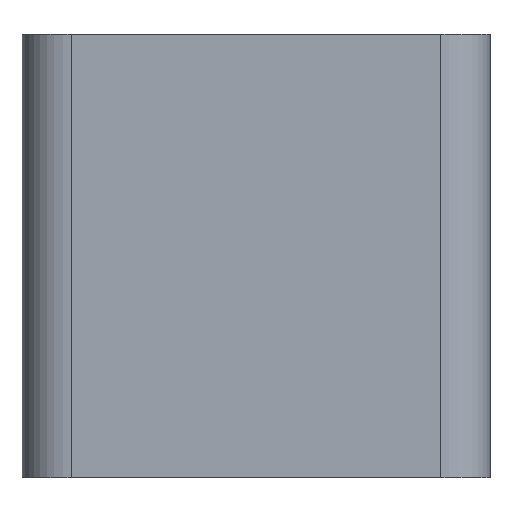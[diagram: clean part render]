
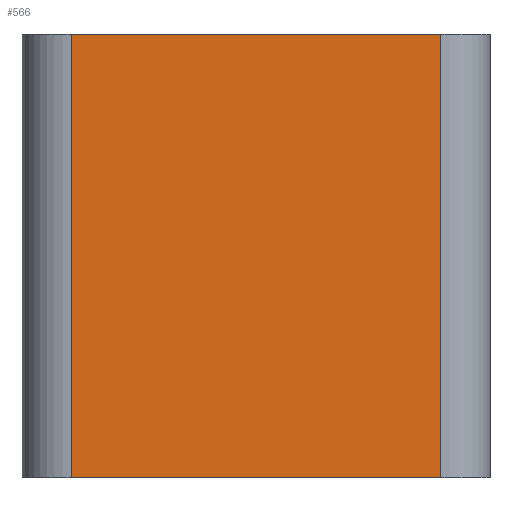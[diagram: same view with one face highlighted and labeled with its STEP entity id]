
A CAD part, front view. The second image highlights one B-rep face of the part: STEP entity #566.
In plain terms, the highlighted planar face has unit normal (0, -1, 0).
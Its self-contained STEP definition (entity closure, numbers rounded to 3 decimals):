
#44 = PLANE('',#45);
#45 = AXIS2_PLACEMENT_3D('',#46,#47,#48);
#46 = CARTESIAN_POINT('',(-31.149,-29.4,2.));
#47 = DIRECTION('',(0.,-0.,-1.));
#48 = DIRECTION('',(-1.,0.,0.));
#72 = CYLINDRICAL_SURFACE('',#73,0.4);
#73 = AXIS2_PLACEMENT_3D('',#74,#75,#76);
#74 = CARTESIAN_POINT('',(-30.749,-29.,5.6));
#75 = DIRECTION('',(-0.,-0.,-1.));
#76 = DIRECTION('',(-1.,-0.,-0.));
#100 = PLANE('',#101);
#101 = AXIS2_PLACEMENT_3D('',#102,#103,#104);
#102 = CARTESIAN_POINT('',(-31.149,-29.4,5.6));
#103 = DIRECTION('',(0.,-0.,-1.));
#104 = DIRECTION('',(-1.,0.,0.));
#143 = VERTEX_POINT('',#144);
#144 = CARTESIAN_POINT('',(-30.749,-29.4,2.));
#170 = EDGE_CURVE('',#143,#171,#173,.T.);
#171 = VERTEX_POINT('',#172);
#172 = CARTESIAN_POINT('',(-27.749,-29.4,2.));
#173 = SURFACE_CURVE('',#174,(#178,#185),.PCURVE_S1.);
#174 = LINE('',#175,#176);
#175 = CARTESIAN_POINT('',(-31.149,-29.4,2.));
#176 = VECTOR('',#177,1.);
#177 = DIRECTION('',(1.,0.,-0.));
#178 = PCURVE('',#44,#179);
#179 = DEFINITIONAL_REPRESENTATION('',(#180),#184);
#180 = LINE('',#181,#182);
#181 = CARTESIAN_POINT('',(-0.,0.));
#182 = VECTOR('',#183,1.);
#183 = DIRECTION('',(-1.,0.));
#184 = ( GEOMETRIC_REPRESENTATION_CONTEXT(2) 
PARAMETRIC_REPRESENTATION_CONTEXT() REPRESENTATION_CONTEXT('2D SPACE',''
  ) );
#185 = PCURVE('',#186,#191);
#186 = PLANE('',#187);
#187 = AXIS2_PLACEMENT_3D('',#188,#189,#190);
#188 = CARTESIAN_POINT('',(-31.149,-29.4,5.6));
#189 = DIRECTION('',(-0.,1.,0.));
#190 = DIRECTION('',(0.,0.,1.));
#191 = DEFINITIONAL_REPRESENTATION('',(#192),#196);
#192 = LINE('',#193,#194);
#193 = CARTESIAN_POINT('',(-3.6,0.));
#194 = VECTOR('',#195,1.);
#195 = DIRECTION('',(-0.,1.));
#196 = ( GEOMETRIC_REPRESENTATION_CONTEXT(2) 
PARAMETRIC_REPRESENTATION_CONTEXT() REPRESENTATION_CONTEXT('2D SPACE',''
  ) );
#215 = CYLINDRICAL_SURFACE('',#216,0.4);
#216 = AXIS2_PLACEMENT_3D('',#217,#218,#219);
#217 = CARTESIAN_POINT('',(-27.749,-29.,5.6));
#218 = DIRECTION('',(-0.,-0.,-1.));
#219 = DIRECTION('',(1.,-0.,-0.));
#342 = VERTEX_POINT('',#343);
#343 = CARTESIAN_POINT('',(-30.749,-29.4,5.6));
#369 = EDGE_CURVE('',#342,#143,#370,.T.);
#370 = SURFACE_CURVE('',#371,(#375,#382),.PCURVE_S1.);
#371 = LINE('',#372,#373);
#372 = CARTESIAN_POINT('',(-30.749,-29.4,5.6));
#373 = VECTOR('',#374,1.);
#374 = DIRECTION('',(-0.,-0.,-1.));
#375 = PCURVE('',#72,#376);
#376 = DEFINITIONAL_REPRESENTATION('',(#377),#381);
#377 = LINE('',#378,#379);
#378 = CARTESIAN_POINT('',(-1.571,0.));
#379 = VECTOR('',#380,1.);
#380 = DIRECTION('',(-0.,1.));
#381 = ( GEOMETRIC_REPRESENTATION_CONTEXT(2) 
PARAMETRIC_REPRESENTATION_CONTEXT() REPRESENTATION_CONTEXT('2D SPACE',''
  ) );
#382 = PCURVE('',#186,#383);
#383 = DEFINITIONAL_REPRESENTATION('',(#384),#388);
#384 = LINE('',#385,#386);
#385 = CARTESIAN_POINT('',(0.,0.4));
#386 = VECTOR('',#387,1.);
#387 = DIRECTION('',(-1.,0.));
#388 = ( GEOMETRIC_REPRESENTATION_CONTEXT(2) 
PARAMETRIC_REPRESENTATION_CONTEXT() REPRESENTATION_CONTEXT('2D SPACE',''
  ) );
#447 = EDGE_CURVE('',#342,#448,#450,.T.);
#448 = VERTEX_POINT('',#449);
#449 = CARTESIAN_POINT('',(-27.749,-29.4,5.6));
#450 = SURFACE_CURVE('',#451,(#455,#462),.PCURVE_S1.);
#451 = LINE('',#452,#453);
#452 = CARTESIAN_POINT('',(-31.149,-29.4,5.6));
#453 = VECTOR('',#454,1.);
#454 = DIRECTION('',(1.,0.,-0.));
#455 = PCURVE('',#100,#456);
#456 = DEFINITIONAL_REPRESENTATION('',(#457),#461);
#457 = LINE('',#458,#459);
#458 = CARTESIAN_POINT('',(-0.,0.));
#459 = VECTOR('',#460,1.);
#460 = DIRECTION('',(-1.,0.));
#461 = ( GEOMETRIC_REPRESENTATION_CONTEXT(2) 
PARAMETRIC_REPRESENTATION_CONTEXT() REPRESENTATION_CONTEXT('2D SPACE',''
  ) );
#462 = PCURVE('',#186,#463);
#463 = DEFINITIONAL_REPRESENTATION('',(#464),#468);
#464 = LINE('',#465,#466);
#465 = CARTESIAN_POINT('',(0.,-0.));
#466 = VECTOR('',#467,1.);
#467 = DIRECTION('',(-0.,1.));
#468 = ( GEOMETRIC_REPRESENTATION_CONTEXT(2) 
PARAMETRIC_REPRESENTATION_CONTEXT() REPRESENTATION_CONTEXT('2D SPACE',''
  ) );
#566 = ADVANCED_FACE('',(#567),#186,.F.);
#567 = FACE_BOUND('',#568,.T.);
#568 = EDGE_LOOP('',(#569,#570,#571,#572));
#569 = ORIENTED_EDGE('',*,*,#447,.F.);
#570 = ORIENTED_EDGE('',*,*,#369,.T.);
#571 = ORIENTED_EDGE('',*,*,#170,.T.);
#572 = ORIENTED_EDGE('',*,*,#573,.F.);
#573 = EDGE_CURVE('',#448,#171,#574,.T.);
#574 = SURFACE_CURVE('',#575,(#579,#586),.PCURVE_S1.);
#575 = LINE('',#576,#577);
#576 = CARTESIAN_POINT('',(-27.749,-29.4,5.6));
#577 = VECTOR('',#578,1.);
#578 = DIRECTION('',(-0.,-0.,-1.));
#579 = PCURVE('',#186,#580);
#580 = DEFINITIONAL_REPRESENTATION('',(#581),#585);
#581 = LINE('',#582,#583);
#582 = CARTESIAN_POINT('',(0.,3.4));
#583 = VECTOR('',#584,1.);
#584 = DIRECTION('',(-1.,0.));
#585 = ( GEOMETRIC_REPRESENTATION_CONTEXT(2) 
PARAMETRIC_REPRESENTATION_CONTEXT() REPRESENTATION_CONTEXT('2D SPACE',''
  ) );
#586 = PCURVE('',#215,#587);
#587 = DEFINITIONAL_REPRESENTATION('',(#588),#592);
#588 = LINE('',#589,#590);
#589 = CARTESIAN_POINT('',(1.571,0.));
#590 = VECTOR('',#591,1.);
#591 = DIRECTION('',(0.,1.));
#592 = ( GEOMETRIC_REPRESENTATION_CONTEXT(2) 
PARAMETRIC_REPRESENTATION_CONTEXT() REPRESENTATION_CONTEXT('2D SPACE',''
  ) );
